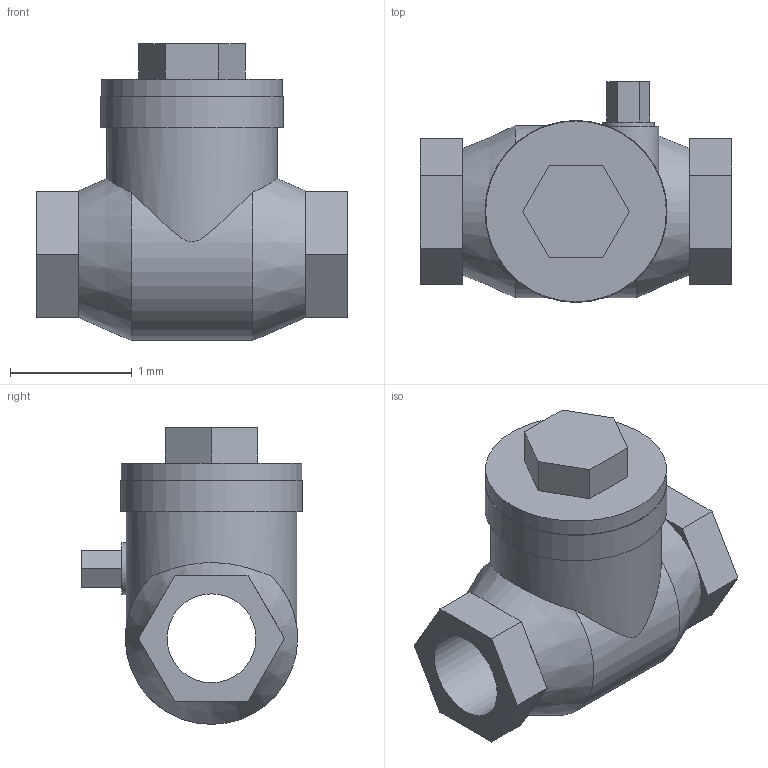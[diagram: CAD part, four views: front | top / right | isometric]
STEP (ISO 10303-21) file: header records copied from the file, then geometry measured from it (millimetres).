
FILE_DESCRIPTION(('Open CASCADE Model'),'2;1');
FILE_NAME('Open CASCADE Shape Model','2021-10-22T16:49:52',('Author'),( 'Open CASCADE'),'Open CASCADE STEP processor 7.3','Open CASCADE 7.3' ,'Unknown');
FILE_SCHEMA(('AUTOMOTIVE_DESIGN { 1 0 10303 214 1 1 1 1 }'));
Length unit declared in the file: millimetre
Products named in the file (1): Open CASCADE STEP translator 7.3 1
Bounding box: 2.56 x 1.82 x 2.44 mm (x, y, z)
Volume: 3.8 mm3; surface area: 23.6 mm2
Topology: 1 solids, 1 shells, 54 faces, 128 edges, 81 vertices
Faces by surface type: plane 45, cylinder 7, cone 2
Full cylindrical faces by diameter (mm): 0.428 x1, 0.5 x1, 0.73 x1, 1.4 x1, 1.485 x1, 1.495 x1
Entity records: 3993 total; most frequent: CARTESIAN_POINT 1382, DIRECTION 482, LINE 299, VECTOR 299, ORIENTED_EDGE 256, PCURVE 256, DEFINITIONAL_REPRESENTATION 256, EDGE_CURVE 128
